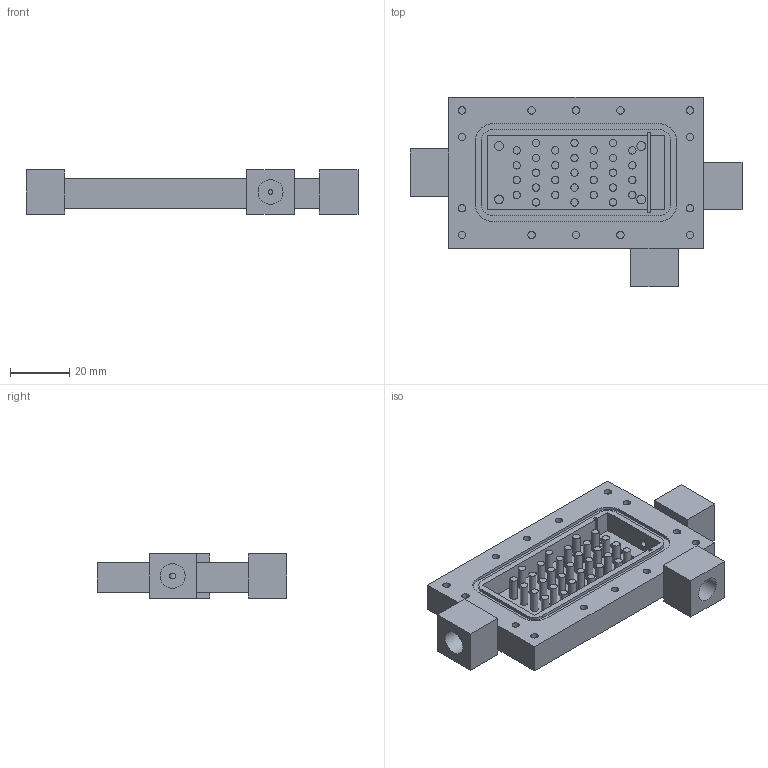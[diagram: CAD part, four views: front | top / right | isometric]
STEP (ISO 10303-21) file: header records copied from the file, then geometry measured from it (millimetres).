
FILE_DESCRIPTION(('Open CASCADE Model'),'2;1');
FILE_NAME('Open CASCADE Shape Model','2026-08-13T15:04:31',('Author'),( 'Open CASCADE'),'Open CASCADE STEP processor 7.9','build123d', 'Unknown');
FILE_SCHEMA(('AUTOMOTIVE_DESIGN { 1 0 10303 214 1 1 1 1 }'));
Length unit declared in the file: millimetre
Products named in the file (1): COMPOUND
Bounding box: 112 x 64 x 15 mm (x, y, z)
Volume: 39770.6 mm3; surface area: 20130.1 mm2
Topology: 1 solids, 1 shells, 186 faces, 348 edges, 228 vertices
Faces by surface type: plane 114, cylinder 72
Full cylindrical faces by diameter (mm): 1.5 x1, 2 x2, 2.5 x49, 3 x4, 3.3 x4, 6 x1, 8.4 x3
Entity records: 9182 total; most frequent: DIRECTION 1522, CARTESIAN_POINT 1519, LINE 720, VECTOR 720, ORIENTED_EDGE 696, PCURVE 696, DEFINITIONAL_REPRESENTATION 696, EDGE_CURVE 348
